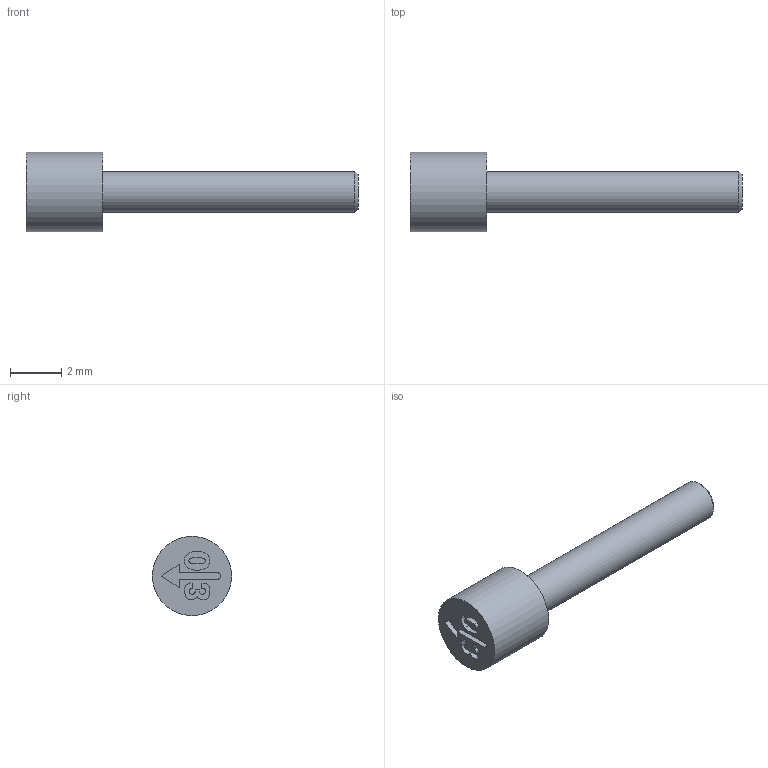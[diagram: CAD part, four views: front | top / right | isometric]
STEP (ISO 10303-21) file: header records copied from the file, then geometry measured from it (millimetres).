
FILE_DESCRIPTION( ( 'STEP AP203' ), ' ' );
FILE_NAME( 'p:/temp/worker_6/1616_1556/app_68_12017012508442240314210260eae72_000000_00_00_000000/format_0/YAN 05.stp', '2017-01-25T07:44:22', ( '' ), ( '' ), ' ', 'PARTsolutions', ' ' );
FILE_SCHEMA( ( 'CONFIG_CONTROL_DESIGN' ) );
Length unit declared in the file: millimetre
Products named in the file (1): _YAN 051
Bounding box: 13 x 3.1 x 3.1 mm (x, y, z)
Volume: 42.4 mm3; surface area: 97.1 mm2
Topology: 1 solids, 1 shells, 42 faces, 104 edges, 69 vertices
Faces by surface type: plane 24, cylinder 17, cone 1
Full cylindrical faces by diameter (mm): 1.6 x1, 3.1 x1
Entity records: 1284 total; most frequent: DIRECTION 222, CARTESIAN_POINT 213, ORIENTED_EDGE 202, EDGE_CURVE 101, AXIS2_PLACEMENT_3D 78, VERTEX_POINT 69, LINE 66, VECTOR 66
